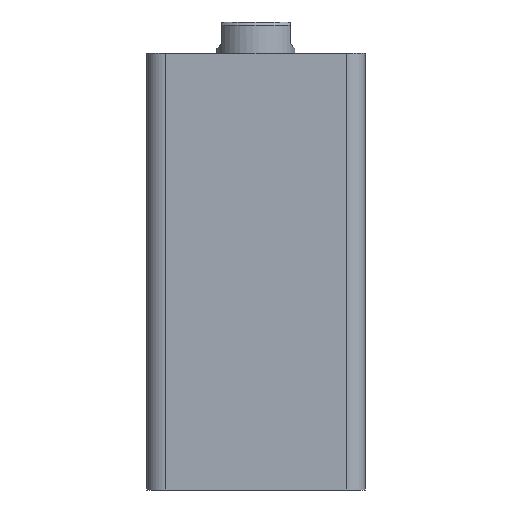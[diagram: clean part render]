
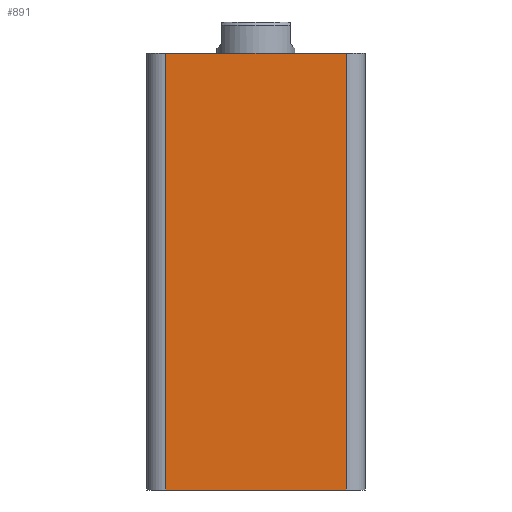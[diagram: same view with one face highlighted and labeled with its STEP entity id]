
A CAD part, front view. The second image highlights one B-rep face of the part: STEP entity #891.
In plain terms, the highlighted planar face has unit normal (0, -1, 0).
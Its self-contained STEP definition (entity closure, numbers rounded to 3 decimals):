
#25 = VECTOR ( 'NONE', #2196, 1000. ) ;
#28 = LINE ( 'NONE', #2198, #25 ) ;
#32 = LINE ( 'NONE', #2200, #49 ) ;
#42 = LINE ( 'NONE', #2220, #45 ) ;
#45 = VECTOR ( 'NONE', #2195, 1000. ) ;
#49 = VECTOR ( 'NONE', #2199, 1000. ) ;
#60 = VECTOR ( 'NONE', #2191, 1000. ) ;
#69 = LINE ( 'NONE', #2192, #60 ) ;
#330 = ORIENTED_EDGE ( 'NONE', *, *, #655, .F. ) ;
#331 = ORIENTED_EDGE ( 'NONE', *, *, #656, .T. ) ;
#332 = ORIENTED_EDGE ( 'NONE', *, *, #657, .T. ) ;
#333 = ORIENTED_EDGE ( 'NONE', *, *, #658, .T. ) ;
#412 = VERTEX_POINT ( 'NONE', #2477 ) ;
#414 = VERTEX_POINT ( 'NONE', #2465 ) ;
#423 = VERTEX_POINT ( 'NONE', #2459 ) ;
#425 = VERTEX_POINT ( 'NONE', #2457 ) ;
#655 = EDGE_CURVE ( 'NONE', #425, #423, #32, .T. ) ;
#656 = EDGE_CURVE ( 'NONE', #425, #414, #28, .T. ) ;
#657 = EDGE_CURVE ( 'NONE', #414, #412, #42, .T. ) ;
#658 = EDGE_CURVE ( 'NONE', #412, #423, #69, .T. ) ;
#891 = ADVANCED_FACE ( 'NONE', ( #1355 ), #1792, .F. ) ;
#908 = AXIS2_PLACEMENT_3D ( 'NONE', #1804, #1791, #1787 ) ;
#990 = EDGE_LOOP ( 'NONE', ( #330, #331, #332, #333 ) ) ;
#1355 = FACE_OUTER_BOUND ( 'NONE', #990, .T. ) ;
#1787 = DIRECTION ( 'NONE',  ( 0., 0., 1. ) ) ;
#1791 = DIRECTION ( 'NONE',  ( 0., 1., 0. ) ) ;
#1792 = PLANE ( 'NONE',  #908 ) ;
#1804 = CARTESIAN_POINT ( 'NONE',  ( -35., -35., 140. ) ) ;
#2191 = DIRECTION ( 'NONE',  ( 0., 0., 1. ) ) ;
#2192 = CARTESIAN_POINT ( 'NONE',  ( 29., -35., 140. ) ) ;
#2195 = DIRECTION ( 'NONE',  ( 1., 0., 0. ) ) ;
#2196 = DIRECTION ( 'NONE',  ( 0., 0., -1. ) ) ;
#2198 = CARTESIAN_POINT ( 'NONE',  ( -29., -35., 140. ) ) ;
#2199 = DIRECTION ( 'NONE',  ( 1., 0., 0. ) ) ;
#2200 = CARTESIAN_POINT ( 'NONE',  ( -35., -35., 140. ) ) ;
#2220 = CARTESIAN_POINT ( 'NONE',  ( -35., -35., 0. ) ) ;
#2457 = CARTESIAN_POINT ( 'NONE',  ( -29., -35., 140. ) ) ;
#2459 = CARTESIAN_POINT ( 'NONE',  ( 29., -35., 140. ) ) ;
#2465 = CARTESIAN_POINT ( 'NONE',  ( -29., -35., 0. ) ) ;
#2477 = CARTESIAN_POINT ( 'NONE',  ( 29., -35., 0. ) ) ;
